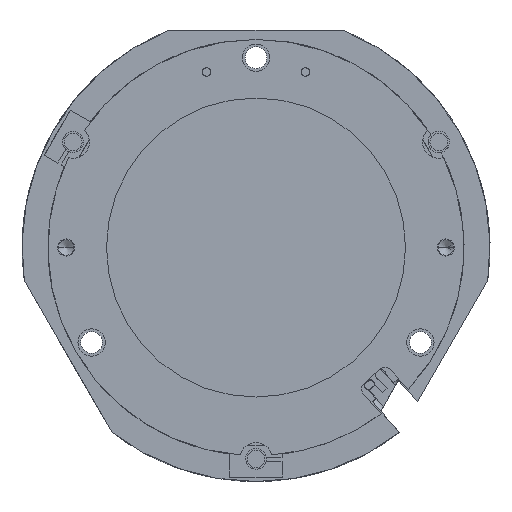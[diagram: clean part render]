
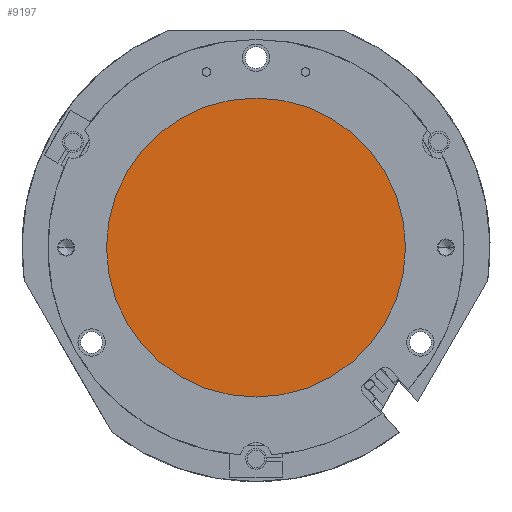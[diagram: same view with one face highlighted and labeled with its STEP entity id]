
A CAD part, front view. The second image highlights one B-rep face of the part: STEP entity #9197.
In plain terms, the highlighted planar face has unit normal (0, -1, 0) as drawn and (0, 1, 0) by its records, which use the part's own axes.
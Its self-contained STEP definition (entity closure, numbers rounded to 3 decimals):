
#1136 = EDGE_CURVE ( 'NONE', #9470, #6262, #13002, .T. ) ;
#1846 = CARTESIAN_POINT ( 'NONE',  ( 0., 6.2, 0. ) ) ;
#1867 = ORIENTED_EDGE ( 'NONE', *, *, #1136, .T. ) ;
#2209 = CIRCLE ( 'NONE', #9265, 57.5 ) ;
#2854 = PLANE ( 'NONE',  #6923 ) ;
#3861 = EDGE_CURVE ( 'NONE', #6262, #9470, #2209, .T. ) ;
#3946 = DIRECTION ( 'NONE',  ( 0., 0., 1. ) ) ;
#6129 = DIRECTION ( 'NONE',  ( 0., 1., 0. ) ) ;
#6262 = VERTEX_POINT ( 'NONE', #12393 ) ;
#6566 = CARTESIAN_POINT ( 'NONE',  ( 0., 6.2, 0. ) ) ;
#6595 = CARTESIAN_POINT ( 'NONE',  ( 0., 6.2, 57.5 ) ) ;
#6923 = AXIS2_PLACEMENT_3D ( 'NONE', #1846, #11417, #3946 ) ;
#7154 = DIRECTION ( 'NONE',  ( 0., 0., -1. ) ) ;
#7252 = DIRECTION ( 'NONE',  ( 0., 1., 0. ) ) ;
#7956 = DIRECTION ( 'NONE',  ( 0., 0., -1. ) ) ;
#8070 = AXIS2_PLACEMENT_3D ( 'NONE', #6566, #7252, #7956 ) ;
#9081 = CARTESIAN_POINT ( 'NONE',  ( 0., 6.2, 0. ) ) ;
#9175 = ORIENTED_EDGE ( 'NONE', *, *, #3861, .T. ) ;
#9197 = ADVANCED_FACE ( 'NONE', ( #11290 ), #2854, .T. ) ;
#9265 = AXIS2_PLACEMENT_3D ( 'NONE', #9081, #6129, #7154 ) ;
#9470 = VERTEX_POINT ( 'NONE', #6595 ) ;
#11290 = FACE_OUTER_BOUND ( 'NONE', #12950, .T. ) ;
#11417 = DIRECTION ( 'NONE',  ( 0., 1., 0. ) ) ;
#12393 = CARTESIAN_POINT ( 'NONE',  ( 0., 6.2, -57.5 ) ) ;
#12950 = EDGE_LOOP ( 'NONE', ( #9175, #1867 ) ) ;
#13002 = CIRCLE ( 'NONE', #8070, 57.5 ) ;
